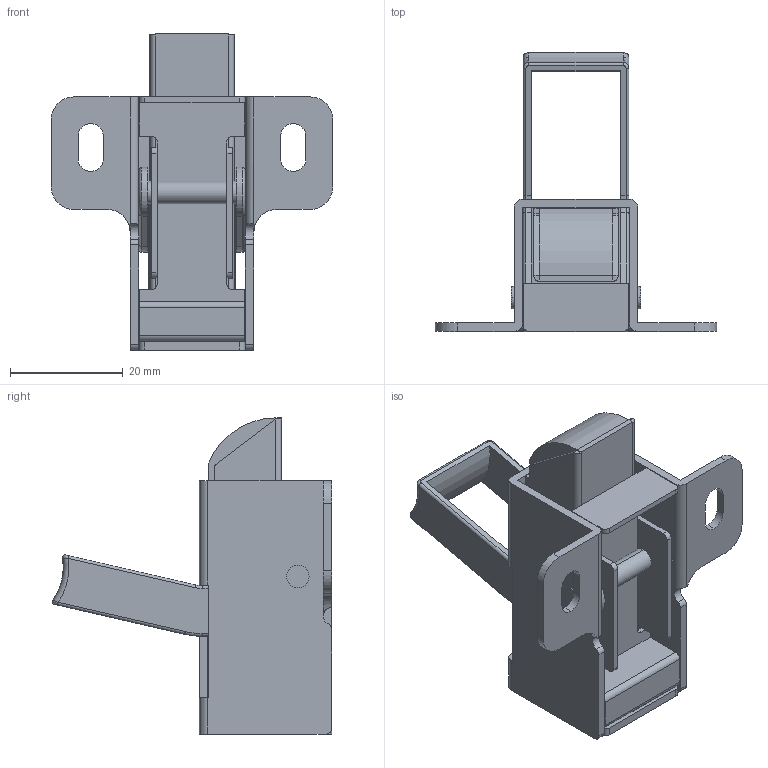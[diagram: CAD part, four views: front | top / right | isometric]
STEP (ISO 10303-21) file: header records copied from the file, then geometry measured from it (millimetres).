
FILE_DESCRIPTION (( 'STEP AP214' ), '1' );
FILE_NAME ('CLB300-1.STEP', '2016-02-03T15:06:46', ( '' ), ( '' ), 'SwSTEP 2.0', 'SolidWorks 2012', '' );
FILE_SCHEMA (( 'AUTOMOTIVE_DESIGN' ));
Length unit declared in the file: millimetre
Products named in the file (1): CLB300-1
Bounding box: 50 x 49.63 x 56.2 mm (x, y, z)
Volume: 18493.5 mm3; surface area: 16262.5 mm2
Topology: 2 solids, 2 shells, 196 faces, 530 edges, 342 vertices
Faces by surface type: plane 95, cylinder 83, torus 14, bspline 4
Entity records: 6419 total; most frequent: CARTESIAN_POINT 1293, DIRECTION 1090, ORIENTED_EDGE 1060, EDGE_CURVE 530, AXIS2_PLACEMENT_3D 379, VERTEX_POINT 342, VECTOR 332, LINE 332
